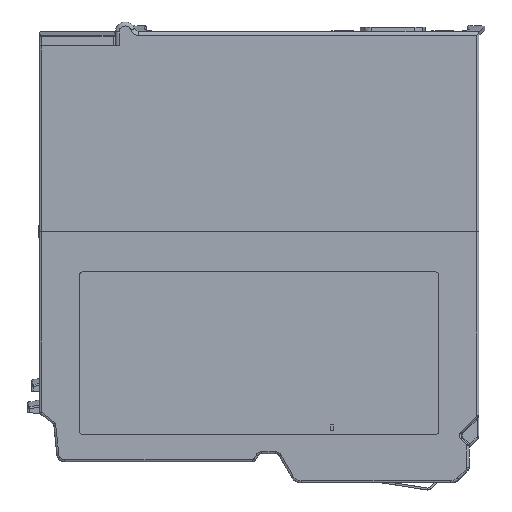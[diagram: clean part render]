
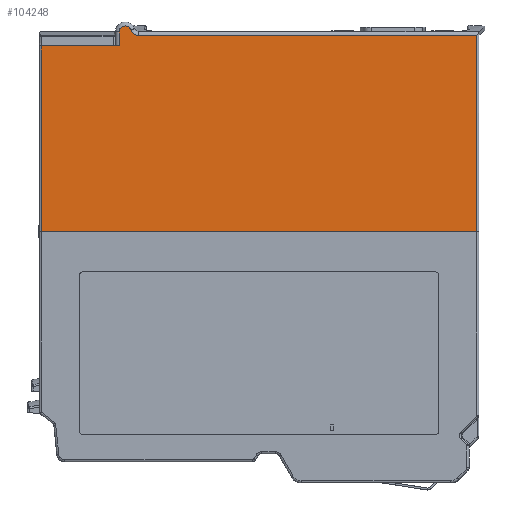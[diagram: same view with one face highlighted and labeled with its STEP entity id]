
A CAD part, left-side view. The second image highlights one B-rep face of the part: STEP entity #104248.
In plain terms, the highlighted planar face has unit normal (-1, 0, 0).
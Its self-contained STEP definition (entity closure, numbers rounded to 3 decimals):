
#6206 = AXIS2_PLACEMENT_3D ( 'NONE', #10457, #10458, #10461 ) ;
#6211 = CIRCLE ( 'NONE', #6206, 1.5 ) ;
#8043 = LINE ( 'NONE', #8074, #43668 ) ;
#8074 = CARTESIAN_POINT ( 'NONE',  ( -14.508, 43.273, 23.991 ) ) ;
#8090 = DIRECTION ( 'NONE',  ( 0., 0., -1. ) ) ;
#10457 = CARTESIAN_POINT ( 'NONE',  ( -14.508, 41.773, 23.991 ) ) ;
#10458 = DIRECTION ( 'NONE',  ( -1., 0., 0. ) ) ;
#10461 = DIRECTION ( 'NONE',  ( 0., 0., -1. ) ) ;
#12199 = VECTOR ( 'NONE', #67680, 1000. ) ;
#12334 = VECTOR ( 'NONE', #48255, 1000. ) ;
#21304 = CARTESIAN_POINT ( 'NONE',  ( -14.508, 43.273, 23.991 ) ) ;
#21310 = CARTESIAN_POINT ( 'NONE',  ( -14.508, 40.364, 24.503 ) ) ;
#21316 = CARTESIAN_POINT ( 'NONE',  ( -14.508, 62.773, 20.491 ) ) ;
#21318 = CARTESIAN_POINT ( 'NONE',  ( -14.508, 43.273, 20.491 ) ) ;
#21322 = CARTESIAN_POINT ( 'NONE',  ( -14.508, 38.463, 23.157 ) ) ;
#21323 = CARTESIAN_POINT ( 'NONE',  ( -14.508, -46.227, 23.157 ) ) ;
#21513 = CARTESIAN_POINT ( 'NONE',  ( -14.508, -46.227, -26.009 ) ) ;
#21523 = CARTESIAN_POINT ( 'NONE',  ( -14.508, 62.773, -26.009 ) ) ;
#39447 = VECTOR ( 'NONE', #92834, 1000. ) ;
#39678 = VECTOR ( 'NONE', #55538, 1000. ) ;
#39717 = VECTOR ( 'NONE', #56127, 1000. ) ;
#43668 = VECTOR ( 'NONE', #8090, 1000. ) ;
#48231 = CARTESIAN_POINT ( 'NONE',  ( -14.508, 63.273, 20.491 ) ) ;
#48251 = LINE ( 'NONE', #48231, #12334 ) ;
#48255 = DIRECTION ( 'NONE',  ( 0., -1., 0. ) ) ;
#51861 = B_SPLINE_CURVE_WITH_KNOTS ( 'NONE', 3,
 ( #68290, #68287, #68284, #68296, #68299, #68302, #68305, #68308 ),
 .UNSPECIFIED., .F., .F.,
 ( 4, 2, 2, 4 ),
 ( 0., 0.001, 0.001, 0.002 ),
 .UNSPECIFIED. ) ;
#55521 = LINE ( 'NONE', #55524, #39678 ) ;
#55524 = CARTESIAN_POINT ( 'NONE',  ( -14.508, 500008.273, 23.157 ) ) ;
#55538 = DIRECTION ( 'NONE',  ( 0., 1., 0. ) ) ;
#56122 = LINE ( 'NONE', #56125, #39717 ) ;
#56125 = CARTESIAN_POINT ( 'NONE',  ( -14.508, -46.727, -26.009 ) ) ;
#56127 = DIRECTION ( 'NONE',  ( 0., -1., 0. ) ) ;
#67674 = EDGE_LOOP ( 'NONE', ( #90575, #90576, #92146, #90578, #90594, #90600, #91157, #91078 ) ) ;
#67676 = LINE ( 'NONE', #67678, #12199 ) ;
#67678 = CARTESIAN_POINT ( 'NONE',  ( -14.508, 62.773, 23.991 ) ) ;
#67680 = DIRECTION ( 'NONE',  ( 0., 0., -1. ) ) ;
#68284 = CARTESIAN_POINT ( 'NONE',  ( -14.508, 38.874, 23.189 ) ) ;
#68287 = CARTESIAN_POINT ( 'NONE',  ( -14.508, 38.671, 23.157 ) ) ;
#68290 = CARTESIAN_POINT ( 'NONE',  ( -14.508, 38.463, 23.157 ) ) ;
#68296 = CARTESIAN_POINT ( 'NONE',  ( -14.508, 39.27, 23.316 ) ) ;
#68299 = CARTESIAN_POINT ( 'NONE',  ( -14.508, 39.455, 23.41 ) ) ;
#68302 = CARTESIAN_POINT ( 'NONE',  ( -14.508, 39.961, 23.769 ) ) ;
#68305 = CARTESIAN_POINT ( 'NONE',  ( -14.508, 40.221, 24.112 ) ) ;
#68308 = CARTESIAN_POINT ( 'NONE',  ( -14.508, 40.364, 24.503 ) ) ;
#77332 = EDGE_CURVE ( 'NONE', #110872, #110880, #8043, .T. ) ;
#77659 = EDGE_CURVE ( 'NONE', #110879, #110999, #67676, .T. ) ;
#77699 = EDGE_CURVE ( 'NONE', #110883, #110875, #51861, .T. ) ;
#78185 = EDGE_CURVE ( 'NONE', #110875, #110872, #6211, .T. ) ;
#78891 = EDGE_CURVE ( 'NONE', #110879, #110880, #48251, .T. ) ;
#90575 = ORIENTED_EDGE ( 'NONE', *, *, #101999, .T. ) ;
#90576 = ORIENTED_EDGE ( 'NONE', *, *, #102543, .T. ) ;
#90578 = ORIENTED_EDGE ( 'NONE', *, *, #78185, .T. ) ;
#90594 = ORIENTED_EDGE ( 'NONE', *, *, #77332, .T. ) ;
#90600 = ORIENTED_EDGE ( 'NONE', *, *, #78891, .F. ) ;
#91078 = ORIENTED_EDGE ( 'NONE', *, *, #102643, .T. ) ;
#91157 = ORIENTED_EDGE ( 'NONE', *, *, #77659, .T. ) ;
#92146 = ORIENTED_EDGE ( 'NONE', *, *, #77699, .T. ) ;
#92812 = CARTESIAN_POINT ( 'NONE',  ( -14.508, -46.227, 23.991 ) ) ;
#92814 = LINE ( 'NONE', #92812, #39447 ) ;
#92834 = DIRECTION ( 'NONE',  ( 0., 0., 1. ) ) ;
#94691 = AXIS2_PLACEMENT_3D ( 'NONE', #96584, #96586, #96588 ) ;
#96494 = FACE_OUTER_BOUND ( 'NONE', #67674, .T. ) ;
#96546 = PLANE ( 'NONE',  #94691 ) ;
#96584 = CARTESIAN_POINT ( 'NONE',  ( -14.508, -46.727, 23.991 ) ) ;
#96586 = DIRECTION ( 'NONE',  ( 1., 0., 0. ) ) ;
#96588 = DIRECTION ( 'NONE',  ( 0., 0., -1. ) ) ;
#101999 = EDGE_CURVE ( 'NONE', #110994, #110884, #92814, .T. ) ;
#102543 = EDGE_CURVE ( 'NONE', #110884, #110883, #55521, .T. ) ;
#102643 = EDGE_CURVE ( 'NONE', #110999, #110994, #56122, .T. ) ;
#104248 = ADVANCED_FACE ( 'NONE', ( #96494 ), #96546, .F. ) ;
#110872 = VERTEX_POINT ( 'NONE', #21304 ) ;
#110875 = VERTEX_POINT ( 'NONE', #21310 ) ;
#110879 = VERTEX_POINT ( 'NONE', #21316 ) ;
#110880 = VERTEX_POINT ( 'NONE', #21318 ) ;
#110883 = VERTEX_POINT ( 'NONE', #21322 ) ;
#110884 = VERTEX_POINT ( 'NONE', #21323 ) ;
#110994 = VERTEX_POINT ( 'NONE', #21513 ) ;
#110999 = VERTEX_POINT ( 'NONE', #21523 ) ;
